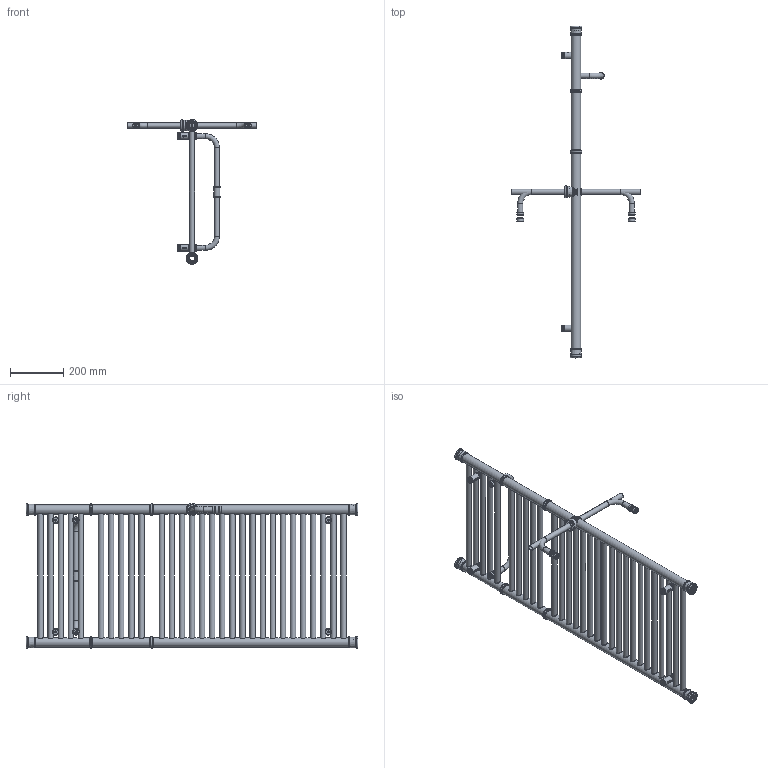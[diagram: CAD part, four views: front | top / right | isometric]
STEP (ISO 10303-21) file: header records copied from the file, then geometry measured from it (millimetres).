
FILE_DESCRIPTION( ( 'Unknown' ), '1' );
FILE_NAME( 'D:/Alplast sp. j/Witryna zespoBu - Projekty/Archiwum/Grzejniki Archiwum/Projekty/DESIGN PROGRAM/RETRO/Retro A5-500.stp', 'Unknown', ( 'Unknown' ), ( 'Unknown' ), 'PSStep 10.1', 'Unknown', ' ' );
FILE_SCHEMA( ( 'AUTOMOTIVE_DESIGN { 1 0 10303 214 1 1 1 1 }' ) );
Length unit declared in the file: millimetre
Products named in the file (60): suszarka Retro 500; Assem1; mocowanie do œciany; katurek z wkrêtem do mocowania do  sciany; Katurek fi 25 v4 ; wkrêt do katurka fi 25 v4; tulejka do mocowania grzejnika v3; mocowanie do grzejnika v3; zaœlepka do mocowania do œciany; detal-v3. par; element do suszarki do mocowania; element do suszarki do mocowania-oa0; tulejka do suszarki ; tulejka do suszarki -oa1; element do suszarki do mocowania ty³; element do suszarki do mocowania ty³-oa2; suszarka 500; kolektor Retro A5; kolektor Retro A5-oa3; Kana³ Prosty Retro 500; Kana³ Prosty Retro 500-oa4; Kana³ Prosty Retro 500-oa5; Kana³ Prosty Retro 500-oa6; Kana³ Prosty Retro 500-oa7; Kana³ Prosty Retro 500-oa8; Kana³ Prosty Retro 500-oa9; Kana³ Prosty Retro 500-oa10; Kana³ Prosty Retro 500-oa11; Kana³ Prosty Retro 500-oa12; Kana³ Prosty Retro 500-oa13; Kana³ Prosty Retro 500-oa14; Kana³ Prosty Retro 500-oa15; Kana³ Prosty Retro 500-oa16; Kana³ Prosty Retro 500-oa17; Kana³ Prosty Retro 500-oa18; Kana³ Prosty Retro 500-oa19; Kana³ Prosty Retro 500-oa20; Kana³ Prosty Retro 500-oa21; Kana³ Prosty Retro 500-oa22; Kana³ Prosty Retro 500-oa23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
Bounding box: 484 x 1248 x 544.97 mm (x, y, z)
Volume: 3093952.9 mm3; surface area: 4763037.9 mm2
Topology: 142 solids, 142 shells, 1144 faces, 2308 edges, 1482 vertices
Faces by surface type: cylinder 498, plane 342, torus 201, cone 84, bspline 12, sphere 7
Full cylindrical faces by diameter (mm): 4.917 x24, 5.9 x6, 6 x27, 6.3 x6, 6.4 x6, 15.5 x6, 17.5 x6, 17.6 x67, 18.631 x8, 20 x67, 20.3 x3, 20.5 x116, 20.6 x6, 21.15 x6, 21.9 x18, 22.8 x3, 24.5 x6, 25 x21, 25.25 x6, 25.3 x6, 32 x8, 32.4 x4, 35 x12, 35.3 x8, 35.5 x8, 39 x16, 41.15 x16
Entity records: 25062 total; most frequent: CARTESIAN_POINT 12732, DIRECTION 1718, ORIENTED_EDGE 990, EDGE_LOOP 972, AXIS2_PLACEMENT_3D 855, FACE_OUTER_BOUND 701, EDGE_CURVE 495, VERTEX_POINT 492
